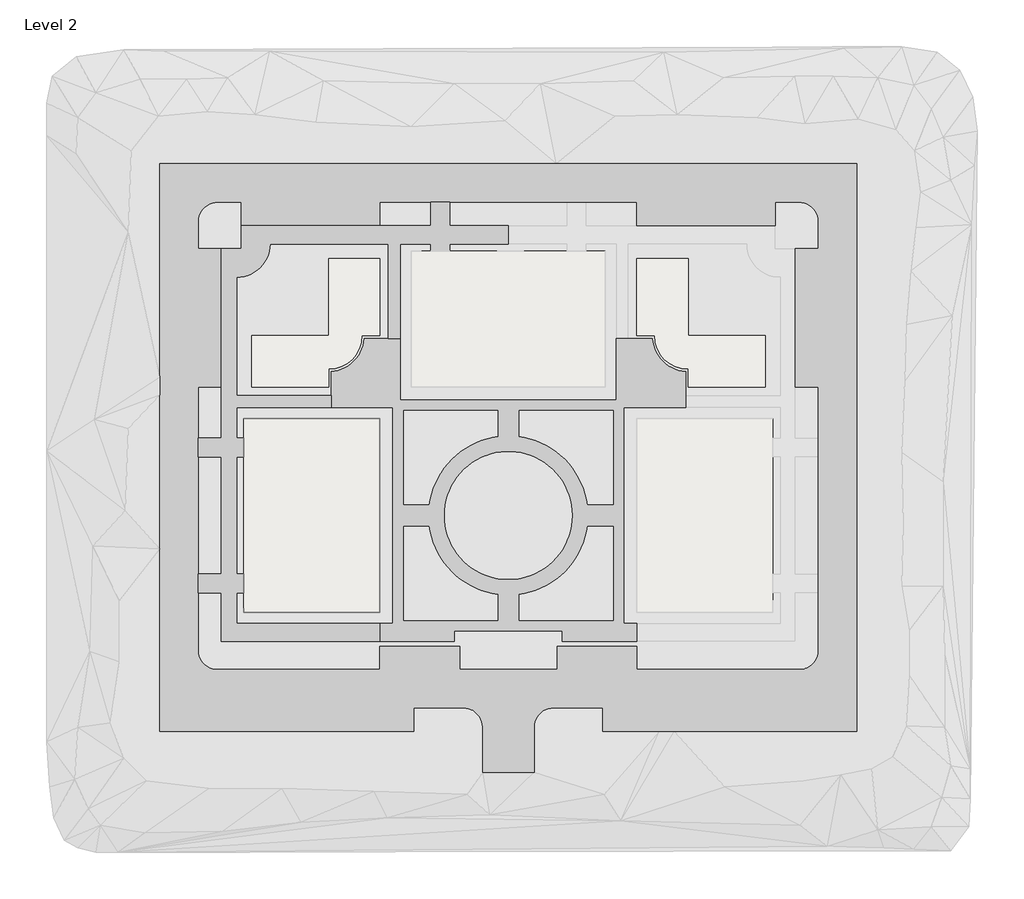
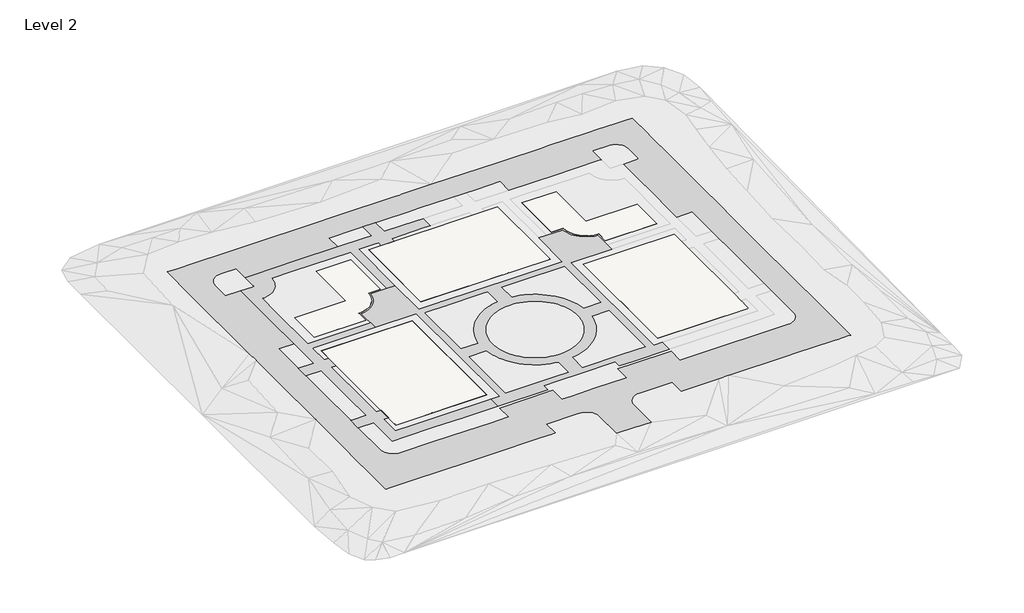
# One storey, part 1 of 3: 5 slabs, 4 proxies.
"""IFC4 building model written with IfcOpenShell, lengths in millimetres."""

from ifc_helpers import new_model, si_unit, point, frame, frame_2d, origin, place, context, project, spatial, polyline, circle_curve, trimmed, segment, composite_curve, outline, extrude, triangles, element, save

model = new_model("IFC4")

# Units and contexts
model_context = context("Model", 3, world=origin())
ifc_project = project(units=[si_unit("LENGTHUNIT", "METRE", prefix="MILLI")], contexts=[model_context])

# Site, building, storey
site = spatial("IfcSite", under=ifc_project)
building = spatial("IfcBuilding", under=site)
storey = spatial("IfcBuildingStorey", under=building, Name="Level 2", Elevation=3047.9999999)

# Proxies
placement = place(None, origin())
element("IfcBuildingElementProxy", 1, Name="Building Element Proxy", at=placement, inside=storey, context=model_context, shape_type="Tessellation", body=[
    triangles([(-153151.1541504, -113064.9684082, 2743.0404167), (-153151.1541504, -113064.9684082, 3048.0), (-153151.1541504, -113979.9265137, 2743.0404167), (-153151.1541504, -113979.9265137, 3048.0), (-152049.379541, -113979.9265137, 2743.0404167), (-152049.379541, -113979.9265137, 3048.0), (-140079.1613525, -113979.9265137, 2743.0404167), (-140079.1613525, -113979.9265137, 3048.0), (-120842.3541504, -113979.9265137, 2743.0404167), (-120842.3541504, -113979.9265137, 3048.0), (-120842.3541504, -67955.1218628, 2743.0404167), (-120842.3541504, -67955.1218628, 3048.0), (-153151.1541504, -67955.1218628, 2743.0404167), (-153151.1541504, -67955.1218628, 3048.0)], [[1, 4, 2], [1, 3, 4], [3, 6, 4], [3, 5, 6], [5, 8, 6], [5, 7, 8], [7, 10, 8], [7, 9, 10], [9, 12, 10], [9, 11, 12], [11, 14, 12], [11, 13, 14]], closed=False),
    triangles([(-153151.1541504, -104835.9265137, 2743.0404167), (-153151.1541504, -104835.9265137, 3048.0), (-153151.1541504, -109407.9265137, 2743.0404167), (-153151.1541504, -109407.9265137, 3048.0)], [[1, 4, 2], [1, 3, 4]], closed=False),
    triangles([(-153151.1541504, -72527.1218628, 2743.0404167), (-153151.1541504, -72527.1218628, 3048.0), (-153151.1541504, -77099.1218628, 2743.0404167), (-153151.1541504, -77099.1218628, 3048.0)], [[1, 4, 2], [1, 3, 4]], closed=False),
    triangles([(-153151.1541504, -67955.1218628, 2743.0404167), (-153151.1541504, -113979.9265137, 2743.0404167), (-120842.3541504, -113979.9265137, 2743.0404167), (-120842.3541504, -67955.1218628, 2743.0404167)], [[1, 2, 4], [3, 4, 2]], closed=False),
])
element("IfcBuildingElementProxy", 2, Name="Building Element Proxy", at=placement, inside=storey, context=model_context, shape_type="Tessellation", body=[
    triangles([(-96458.3541504, -141259.5265137, 3048.0), (-96458.3541504, -151927.5265137, 3048.0), (-90362.3541504, -151927.5265137, 3048.0), (-84266.3541504, -151927.5265137, 3048.0), (-84266.3541504, -141259.5265137, 3048.0), (-84219.8174561, -140608.8592529, 3048.0), (-84081.1561523, -139971.4376953, 3048.0), (-83853.1979736, -139360.2470947, 3048.0), (-83540.5658936, -138787.7145996, 3048.0), (-83149.640918, -138265.4953125, 3048.0), (-82688.3853516, -137804.2304443, 3048.0), (-82166.1660645, -137413.3147705, 3048.0), (-81593.6335693, -137100.6826904, 3048.0), (-80982.4429688, -136872.7245117, 3048.0), (-80345.0214111, -136734.0539063, 3048.0), (-79694.3541504, -136687.5265137, 3048.0), (-70630.3399658, -136687.5265137, 3048.0), (-67959.5588013, -136687.5265137, 3048.0), (-67959.5588013, -142173.9265137, 3048.0), (-54593.6723145, -142173.9265137, 3048.0), (-50988.4086548, -142173.9265137, 3048.0), (-30015.5818359, -142173.9265137, 3048.0), (-27380.2333923, -142173.9265137, 3048.0), (-14368.7717834, -142173.9265137, 3048.0), (-12021.3371613, -142173.9265137, 3048.0), (-8520.228772, -142173.9265137, 3048.0), (-7609.1582199, -142173.9265137, 3048.0), (-7609.1582199, -141262.8472412, 3048.0), (-7609.1582199, -135897.4445068, 3048.0), (-7609.1582199, -128757.108252, 3048.0), (-7609.1582199, -119744.5513916, 3048.0), (-7609.1582199, -109311.1696289, 3048.0), (-7609.1582199, -103111.0178467, 3048.0), (-7609.1582199, -88141.7269043, 3048.0), (-7609.1582199, -67102.3320557, 3048.0), (-7609.1582199, -63543.7213623, 3048.0), (-7609.1582199, -48692.6557617, 3048.0), (-7609.1582199, -45786.2285156, 3048.0), (-7609.1582199, -34925.2565735, 3048.0), (-7609.1582199, -29394.9894836, 3048.0), (-7609.1582199, -20175.2708496, 3048.0), (-7609.1582199, -15160.5374084, 3048.0), (-7609.1582199, -9469.011557, 3048.0), (-7609.1582199, -7452.3218628, 3048.0), (-9769.8966797, -7452.3218628, 3048.0), (-13137.2725342, -7452.3218628, 3048.0), (-20332.1054626, -7452.3218628, 3048.0), (-23395.2487244, -7452.3218628, 3048.0), (-37615.0575073, -7452.3218628, 3048.0), (-40375.0099731, -7452.3218628, 3048.0), (-52788.1732178, -7452.3218628, 3048.0), (-55510.2210205, -7452.3218628, 3048.0), (-79028.6831543, -7452.3218628, 3048.0), (-89744.5965088, -7452.3218628, 3048.0), (-90362.3541504, -7452.3218628, 3048.0), (-91818.4420166, -7452.3218628, 3048.0), (-112747.4808105, -7452.3218628, 3048.0), (-121728.1977539, -7452.3218628, 3048.0), (-142112.3953857, -7452.3218628, 3048.0), (-152868.4644287, -7452.3218628, 3048.0), (-163060.4655762, -7452.3218628, 3048.0), (-169916.8098633, -7452.3218628, 3048.0), (-173115.5541504, -7452.3218628, 3048.0), (-173115.5541504, -12340.9792786, 3048.0), (-173115.5541504, -16797.6432953, 3048.0), (-173115.5541504, -19343.470459, 3048.0), (-173115.5541504, -58140.023291, 3048.0), (-173115.5541504, -62355.6543457, 3048.0), (-173115.5541504, -78335.3859375, 3048.0), (-173115.5541504, -96485.831543, 3048.0), (-173115.5541504, -98940.6863525, 3048.0), (-173115.5541504, -118406.8004883, 3048.0), (-173115.5541504, -122301.5302002, 3048.0), (-173115.5541504, -133177.6942383, 3048.0), (-173115.5541504, -139265.5924072, 3048.0), (-173115.5541504, -142173.9265137, 3048.0), (-171062.6189941, -142173.9265137, 3048.0), (-161579.2164551, -142173.9265137, 3048.0), (-155924.3616211, -142173.9265137, 3048.0), (-141364.1619873, -142173.9265137, 3048.0), (-134914.7603027, -142173.9265137, 3048.0), (-118098.4844238, -142173.9265137, 3048.0), (-113948.1331055, -142173.9265137, 3048.0), (-112765.1541504, -142173.9265137, 3048.0), (-112765.1541504, -136687.5265137, 3048.0), (-101809.9809814, -136687.5265137, 3048.0), (-101030.3541504, -136687.5265137, 3048.0), (-100379.6961914, -136734.0539063, 3048.0), (-99742.2746338, -136872.7245117, 3048.0), (-99131.0840332, -137100.6826904, 3048.0), (-98978.0329102, -137184.2496826, 3048.0), (-98558.5515381, -137413.3147705, 3048.0), (-98036.332251, -137804.2304443, 3048.0), (-97575.0673828, -138265.4953125, 3048.0), (-97184.1424072, -138787.7145996, 3048.0), (-96871.5196289, -139360.2470947, 3048.0), (-96643.5521484, -139971.4376953, 3048.0), (-96504.8908447, -140608.8592529, 3048.0), (-120842.3541504, -16596.3218628, 3048.0), (-111973.5931641, -16596.3218628, 3048.0), (-92323.0716797, -16596.3218628, 3048.0), (-88392.1767334, -16596.3218628, 3048.0), (-68080.4816528, -16596.3218628, 3048.0), (-59882.3588013, -16596.3218628, 3048.0), (-59882.3588013, -22082.7218628, 3048.0), (-43016.1185303, -22082.7218628, 3048.0), (-36760.488739, -22082.7218628, 3048.0), (-27869.6965393, -22082.7218628, 3048.0), (-26963.9588013, -22082.7218628, 3048.0), (-26963.9588013, -17204.3033569, 3048.0), (-26963.9588013, -16596.3218628, 3048.0), (-21325.1588013, -16596.3218628, 3048.0), (-20674.493866, -16642.8585571, 3048.0), (-20037.0769592, -16781.5198608, 3048.0), (-19425.880545, -17009.4838531, 3048.0), (-18853.3480499, -17322.1112823, 3048.0), (-18331.1345764, -17713.0350952, 3048.0), (-17869.870871, -18174.2988007, 3048.0), (-17478.9470581, -18696.5122742, 3048.0), (-17166.3207916, -19269.0447693, 3048.0), (-16938.3556366, -19880.2400208, 3048.0), (-16799.6943329, -20517.6592529, 3048.0), (-16753.1576385, -21168.3218628, 3048.0), (-16753.1576385, -26553.1513184, 3048.0), (-16753.1576385, -27569.1218628, 3048.0), (-22239.5588013, -27569.1218628, 3048.0), (-22239.5588013, -28669.615155, 3048.0), (-22239.5588013, -35337.7267456, 3048.0), (-22239.5588013, -46411.753125, 3048.0), (-22239.5588013, -54882.9383789, 3048.0), (-22239.5588013, -60487.5218628, 3048.0), (-16753.1576385, -60487.5218628, 3048.0), (-16753.1576385, -98657.3269043, 3048.0), (-16753.1576385, -111345.1664063, 3048.0), (-16753.1576385, -122722.3696289, 3048.0), (-16753.1576385, -122971.5265137, 3048.0), (-16799.6943329, -123622.1844727, 3048.0), (-16938.3556366, -124259.6060303, 3048.0), (-17166.3207916, -124870.7966309, 3048.0), (-17478.9470581, -125443.329126, 3048.0), (-17869.870871, -125965.5484131, 3048.0), (-18331.1345764, -126426.8132813, 3048.0), (-18853.3480499, -126817.7289551, 3048.0), (-19425.880545, -127130.3610352, 3048.0), (-19872.0754028, -127296.7787842, 3048.0), (-20037.0769592, -127358.3192139, 3048.0), (-20674.493866, -127496.9898193, 3048.0), (-21325.1588013, -127543.5265137, 3048.0), (-34741.3910522, -127543.5265137, 3048.0), (-41871.5883911, -127543.5265137, 3048.0), (-59882.3588013, -127543.5265137, 3048.0), (-59882.3588013, -122057.1265137, 3048.0), (-72794.2171875, -122057.1265137, 3048.0), (-78779.9541504, -122057.1265137, 3048.0), (-78779.9541504, -127543.5265137, 3048.0), (-90362.3541504, -127543.5265137, 3048.0), (-98445.9909668, -127543.5265137, 3048.0), (-101944.7541504, -127543.5265137, 3048.0), (-101944.7541504, -122057.1265137, 3048.0), (-103048.1844727, -122057.1265137, 3048.0), (-120842.3541504, -122057.1265137, 3048.0), (-120842.3541504, -127543.5265137, 3048.0), (-127508.0124023, -127543.5265137, 3048.0), (-135716.2462646, -127543.5265137, 3048.0), (-147842.1479736, -127543.5265137, 3048.0), (-159399.5541504, -127543.5265137, 3048.0), (-160050.2307129, -127496.9898193, 3048.0), (-160687.6429688, -127358.3192139, 3048.0), (-161298.8428711, -127130.3610352, 3048.0), (-161871.3660645, -126817.7289551, 3048.0), (-162393.5853516, -126426.8132813, 3048.0), (-162854.840918, -125965.5484131, 3048.0), (-163245.7751953, -125443.329126, 3048.0), (-163558.3886719, -124870.7966309, 3048.0), (-163786.3561523, -124259.6060303, 3048.0), (-163925.0267578, -123622.1844727, 3048.0), (-163971.5541504, -122971.5265137, 3048.0), (-163971.5541504, -109289.2825928, 3048.0), (-163971.5541504, -104079.330835, 3048.0), (-163971.5541504, -88201.2767578, 3048.0), (-163971.5541504, -60487.5218628, 3048.0), (-158485.1541504, -60487.5218628, 3048.0), (-158485.1541504, -46724.2270752, 3048.0), (-158485.1541504, -34220.483313, 3048.0), (-158485.1541504, -27569.1218628, 3048.0), (-163971.5541504, -27569.1218628, 3048.0), (-163971.5541504, -21168.3218628, 3048.0), (-163925.0267578, -20517.6592529, 3048.0), (-163786.3561523, -19880.2400208, 3048.0), (-163558.3886719, -19269.0447693, 3048.0), (-163245.7751953, -18696.5122742, 3048.0), (-162854.840918, -18174.2988007, 3048.0), (-162393.5853516, -17713.0350952, 3048.0), (-161871.3660645, -17322.1112823, 3048.0), (-161298.8428711, -17009.4838531, 3048.0), (-160687.6429688, -16781.5198608, 3048.0), (-160050.2307129, -16642.8585571, 3048.0), (-159399.5541504, -16596.3218628, 3048.0), (-153760.7541504, -16596.3218628, 3048.0), (-153760.7541504, -22082.7218628, 3048.0), (-151061.086377, -22082.7218628, 3048.0), (-135421.6781982, -22082.7218628, 3048.0), (-120842.3541504, -22082.7218628, 3048.0)], [[75, 76, 77], [75, 77, 78], [78, 74, 75], [169, 74, 78], [167, 78, 166], [78, 79, 166], [165, 79, 80], [164, 80, 81], [164, 165, 80], [163, 164, 81], [163, 82, 162], [79, 165, 166], [174, 175, 73], [174, 73, 74], [73, 176, 177], [176, 73, 175], [72, 73, 177], [74, 173, 174], [167, 168, 78], [173, 74, 172], [171, 74, 170], [74, 171, 172], [168, 169, 78], [74, 169, 170], [163, 81, 82], [85, 83, 84], [85, 82, 83], [9, 156, 95], [156, 94, 95], [2, 3, 1], [1, 3, 5], [6, 97, 98], [5, 98, 1], [96, 97, 7], [3, 4, 5], [95, 96, 8], [85, 86, 158], [162, 160, 161], [158, 86, 87], [158, 87, 88], [158, 160, 162], [88, 157, 158], [162, 85, 158], [92, 93, 157], [91, 92, 157], [89, 90, 157], [157, 90, 91], [93, 156, 157], [89, 157, 88], [93, 94, 156], [85, 162, 82], [71, 72, 178], [70, 71, 179], [68, 69, 181], [67, 68, 181], [70, 180, 69], [179, 180, 70], [69, 180, 181], [67, 186, 66], [186, 67, 183], [183, 67, 181], [178, 179, 71], [177, 178, 72], [66, 186, 187], [189, 65, 66], [188, 66, 187], [64, 65, 192], [63, 64, 62], [193, 62, 64], [188, 189, 66], [192, 65, 191], [191, 65, 190], [62, 193, 61], [64, 192, 193], [193, 194, 61], [61, 194, 195], [190, 65, 189], [186, 184, 185], [198, 61, 197], [197, 61, 196], [186, 183, 184], [159, 160, 158], [59, 201, 202], [199, 200, 201], [181, 182, 183], [99, 202, 203], [99, 58, 202], [201, 59, 199], [198, 199, 60], [59, 60, 199], [59, 202, 58], [99, 57, 58], [60, 61, 198], [56, 100, 101], [55, 101, 102], [56, 57, 100], [54, 55, 102], [56, 101, 55], [102, 53, 54], [100, 57, 99], [196, 61, 195], [98, 5, 6], [96, 7, 8], [156, 10, 11], [10, 156, 9], [9, 95, 8], [20, 18, 19], [21, 151, 20], [13, 156, 12], [21, 22, 150], [12, 156, 11], [14, 15, 155], [13, 14, 155], [155, 16, 17], [154, 155, 153], [155, 15, 16], [156, 13, 155], [153, 17, 18], [150, 22, 149], [21, 150, 151], [152, 153, 151], [151, 18, 20], [153, 18, 151], [17, 153, 155], [22, 23, 149], [148, 24, 147], [146, 147, 24], [24, 145, 146], [24, 144, 145], [148, 23, 24], [28, 25, 26], [28, 26, 27], [29, 144, 24], [143, 144, 29], [29, 24, 25], [25, 28, 29], [142, 29, 30], [143, 29, 142], [142, 30, 141], [140, 30, 139], [139, 30, 138], [30, 140, 141], [136, 137, 31], [135, 136, 31], [33, 134, 32], [31, 32, 134], [134, 135, 31], [138, 30, 137], [137, 30, 31], [148, 149, 23], [134, 33, 133], [50, 106, 107], [104, 105, 106], [108, 109, 110], [108, 110, 107], [110, 111, 107], [128, 129, 38], [125, 127, 128], [127, 125, 126], [37, 129, 130], [52, 53, 103], [52, 103, 104], [51, 52, 104], [51, 104, 106], [50, 51, 106], [107, 111, 49], [113, 114, 47], [49, 111, 48], [112, 47, 48], [47, 112, 113], [111, 112, 48], [114, 115, 47], [49, 50, 107], [130, 131, 132], [53, 102, 103], [39, 128, 38], [124, 125, 40], [130, 132, 37], [124, 41, 123], [41, 122, 123], [132, 34, 35], [35, 36, 132], [38, 129, 37], [39, 40, 125], [39, 125, 128], [36, 37, 132], [133, 33, 34], [40, 41, 124], [119, 120, 42], [118, 119, 42], [116, 117, 46], [115, 116, 46], [118, 46, 117], [41, 42, 120], [41, 121, 122], [42, 46, 118], [45, 46, 43], [43, 44, 45], [46, 42, 43], [120, 121, 41], [115, 46, 47], [133, 34, 132], [7, 97, 6]], closed=False),
])
element("IfcBuildingElementProxy", 3, Name="Building Element Proxy", at=placement, inside=storey, context=model_context, shape_type="Tessellation", body=[
    triangles([(-115965.5541504, -63535.5218628, 3048.0), (-115965.5541504, -48905.1218628, 3048.0), (-124521.7574707, -48905.1218628, 3048.0), (-124628.057959, -49768.622644, 3048.0), (-124821.7112549, -50616.8173828, 3048.0), (-125100.7174805, -51440.8880127, 3048.0), (-125462.1744873, -52232.2676147, 3048.0), (-125902.3150635, -52982.7380859, 3048.0), (-126416.5813477, -53684.4999023, 3048.0), (-126999.6248291, -54330.255835, 3048.0), (-127645.3807617, -54913.2946655, 3048.0), (-128347.1425781, -55427.5609497, 3048.0), (-129097.6083984, -55867.7061768, 3048.0), (-129888.9926514, -56229.1631836, 3048.0), (-130713.0632813, -56508.1694092, 3048.0), (-131561.2533691, -56701.827356, 3048.0), (-132424.7541504, -56808.1231934, 3048.0), (-132424.7541504, -65364.3218628, 3048.0), (-117794.3541504, -65364.3218628, 3048.0), (-117794.3541504, -116570.7265137, 3048.0), (-120842.3541504, -116570.7265137, 3048.0), (-120842.3541504, -120837.9265137, 3048.0), (-103163.9541504, -120837.9265137, 3048.0), (-103163.9541504, -120689.163501, 3048.0), (-103163.9541504, -118399.5265137, 3048.0), (-97941.352002, -118399.5265137, 3048.0), (-90362.3541504, -118399.5265137, 3048.0), (-77560.7588013, -118399.5265137, 3048.0), (-77560.7588013, -120837.9265137, 3048.0), (-72974.5410645, -120837.9265137, 3048.0), (-59882.3588013, -120837.9265137, 3048.0), (-59882.3588013, -116570.7265137, 3048.0), (-62930.3588013, -116570.7265137, 3048.0), (-62930.3588013, -65364.3218628, 3048.0), (-48299.9588013, -65364.3218628, 3048.0), (-48299.9588013, -56808.1231934, 3048.0), (-49163.4595825, -56701.827356, 3048.0), (-50011.6543213, -56508.1694092, 3048.0), (-50835.7249512, -56229.1631836, 3048.0), (-51627.1045532, -55867.7061768, 3048.0), (-52377.5750244, -55427.5609497, 3048.0), (-53079.3368408, -54913.2946655, 3048.0), (-53725.0881226, -54330.255835, 3048.0), (-54308.131604, -53684.4999023, 3048.0), (-54822.3978882, -52982.7380859, 3048.0), (-55262.5431152, -52232.2676147, 3048.0), (-55624.0001221, -51440.8880127, 3048.0), (-55903.0063477, -50616.8173828, 3048.0), (-56096.6642944, -49768.622644, 3048.0), (-56202.9601318, -48905.1218628, 3048.0), (-64759.1588013, -48905.1218628, 3048.0), (-64759.1588013, -63535.5218628, 3048.0), (-81449.735376, -63535.5218628, 3048.0), (-94913.5368164, -63535.5218628, 3048.0), (-108001.017041, -63535.5218628, 3048.0), (-92800.7541504, -65973.9218628, 3048.0), (-92800.7541504, -72227.8982666, 3048.0), (-94158.9968262, -72455.2332275, 3048.0), (-95422.7708496, -72762.7958496, 3048.0), (-95497.073291, -72780.8784668, 3048.0), (-96807.877002, -73203.1038574, 3048.0), (-98084.4595459, -73719.6676758, 3048.0), (-99320.0213379, -74327.8259033, 3048.0), (-100508.0232422, -75024.3508301, 3048.0), (-101642.1493652, -75805.5403564, 3048.0), (-102716.3628662, -76667.2505493, 3048.0), (-103724.9803711, -77604.900293, 3048.0), (-104662.6254639, -78613.5177979, 3048.0), (-105524.3403076, -79687.7312988, 3048.0), (-106305.529834, -80821.8574219, 3048.0), (-106508.6988281, -81168.3851074, 3048.0), (-107002.0547607, -82009.8500244, 3048.0), (-107610.2129883, -83245.4211182, 3048.0), (-108126.7768066, -84522.0036621, 3048.0), (-108549.0021973, -85832.807373, 3048.0), (-108874.6474365, -87170.8838379, 3048.0), (-109101.9823975, -88529.1265137, 3048.0), (-115355.9541504, -88529.1265137, 3048.0), (-115355.9541504, -65973.9218628, 3048.0), (-107794.6482422, -65973.9218628, 3048.0), (-95048.1053467, -65973.9218628, 3048.0), (-92800.7541504, -115961.1265137, 3048.0), (-97806.7834717, -115961.1265137, 3048.0), (-103564.1064697, -115961.1265137, 3048.0), (-115355.9541504, -115961.1265137, 3048.0), (-115355.9541504, -93405.9265137, 3048.0), (-109101.9823975, -93405.9265137, 3048.0), (-108874.6474365, -94764.1598877, 3048.0), (-108549.0021973, -96102.2363525, 3048.0), (-108126.7768066, -97413.0400635, 3048.0), (-107610.2129883, -98689.6226074, 3048.0), (-107002.0547607, -99925.1937012, 3048.0), (-106305.529834, -101113.1863037, 3048.0), (-105524.3403076, -102247.3124268, 3048.0), (-104662.6254639, -103321.5259277, 3048.0), (-104630.9436768, -103355.6168701, 3048.0), (-103724.9803711, -104330.1434326, 3048.0), (-102716.3628662, -105267.7978271, 3048.0), (-101642.1493652, -106129.5033691, 3048.0), (-100508.0232422, -106910.6928955, 3048.0), (-99320.0213379, -107607.2178223, 3048.0), (-98084.4595459, -108215.3760498, 3048.0), (-97394.7156006, -108494.475293, 3048.0), (-96807.877002, -108731.9398682, 3048.0), (-95497.073291, -109154.1652588, 3048.0), (-94158.9968262, -109479.810498, 3048.0), (-92800.7541504, -109707.145459, 3048.0), (-105602.3541504, -90967.5265137, 3048.0), (-105552.9432129, -89741.2106689, 3048.0), (-105405.0080566, -88522.8571289, 3048.0), (-105159.5067627, -87320.3537842, 3048.0), (-104818.0578369, -86141.5048096, 3048.0), (-104382.8471924, -84993.9469482, 3048.0), (-103856.7118652, -83885.14021, 3048.0), (-103243.0562988, -82822.2655518, 3048.0), (-102545.8616455, -81812.2062744, 3048.0), (-101769.6578613, -80861.5294189, 3048.0), (-100919.4771973, -79976.392749, 3048.0), (-100000.8262939, -79162.544751, 3048.0), (-99019.6675781, -78425.2502197, 3048.0), (-97982.3541504, -77769.2949097, 3048.0), (-96895.6297852, -77198.9390259, 3048.0), (-95766.5359131, -76717.8753662, 3048.0), (-95638.683252, -76675.1895996, 3048.0), (-94602.3930176, -76329.2246704, 3048.0), (-93410.754126, -76035.5123657, 3048.0), (-92199.3396973, -75838.6406616, 3048.0), (-90976.0097168, -75739.879248, 3048.0), (-89748.7078857, -75739.879248, 3048.0), (-88525.3779053, -75838.6406616, 3048.0), (-87313.9634766, -76035.5123657, 3048.0), (-86122.324585, -76329.2246704, 3048.0), (-84958.1816895, -76717.8753662, 3048.0), (-83829.0878174, -77198.9390259, 3048.0), (-82742.3541504, -77769.2949097, 3048.0), (-81705.0500244, -78425.2502197, 3048.0), (-80723.8913086, -79162.544751, 3048.0), (-79805.2404053, -79976.392749, 3048.0), (-78955.0504395, -80861.5294189, 3048.0), (-78872.1438721, -80963.076709, 3048.0), (-78178.8466553, -81812.2062744, 3048.0), (-77481.6613037, -82822.2655518, 3048.0), (-76868.0103882, -83885.14021, 3048.0), (-76341.8704102, -84993.9469482, 3048.0), (-75906.6644165, -86141.5048096, 3048.0), (-75565.206189, -87320.3537842, 3048.0), (-75319.7141968, -88522.8571289, 3048.0), (-75171.7743896, -89741.2106689, 3048.0), (-75122.3588013, -90967.5265137, 3048.0), (-75171.7743896, -92193.8330566, 3048.0), (-75319.7141968, -93412.1865967, 3048.0), (-75565.206189, -94614.6899414, 3048.0), (-75906.6644165, -95793.538916, 3048.0), (-76341.8704102, -96941.0967773, 3048.0), (-76469.2486816, -97209.5362061, 3048.0), (-76868.0103882, -98049.9035156, 3048.0), (-77481.6613037, -99112.7781738, 3048.0), (-78178.8466553, -100122.8374512, 3048.0), (-78955.0504395, -101073.5143066, 3048.0), (-79805.2404053, -101958.6509766, 3048.0), (-80723.8913086, -102772.4989746, 3048.0), (-81705.0500244, -103509.7935059, 3048.0), (-82742.3541504, -104165.7534668, 3048.0), (-83829.0878174, -104736.1093506, 3048.0), (-84958.1816895, -105217.1683594, 3048.0), (-86122.324585, -105605.8144043, 3048.0), (-87313.9634766, -105899.5360107, 3048.0), (-88525.3779053, -106096.4077148, 3048.0), (-89748.7078857, -106195.1644775, 3048.0), (-90976.0097168, -106195.1644775, 3048.0), (-92199.3396973, -106096.4077148, 3048.0), (-93410.754126, -105899.5360107, 3048.0), (-94602.3930176, -105605.8144043, 3048.0), (-95766.5359131, -105217.1683594, 3048.0), (-96895.6297852, -104736.1093506, 3048.0), (-97179.0915527, -104587.3370361, 3048.0), (-97982.3541504, -104165.7534668, 3048.0), (-99019.6675781, -103509.7935059, 3048.0), (-100000.8262939, -102772.4989746, 3048.0), (-100919.4771973, -101958.6509766, 3048.0), (-101769.6578613, -101073.5143066, 3048.0), (-102545.8616455, -100122.8374512, 3048.0), (-103243.0562988, -99112.7781738, 3048.0), (-103856.7118652, -98049.9035156, 3048.0), (-104382.8471924, -96941.0967773, 3048.0), (-104818.0578369, -95793.538916, 3048.0), (-105159.5067627, -94614.6899414, 3048.0), (-105405.0080566, -93412.1865967, 3048.0), (-105552.9432129, -92193.8330566, 3048.0), (-87923.9541504, -65973.9218628, 3048.0), (-81089.0876221, -65973.9218628, 3048.0), (-65368.7588013, -65973.9218628, 3048.0), (-65368.7588013, -88529.1265137, 3048.0), (-71622.7352051, -88529.1265137, 3048.0), (-71850.070166, -87170.8838379, 3048.0), (-72175.7154053, -85832.807373, 3048.0), (-72597.9407959, -84522.0036621, 3048.0), (-73114.5046143, -83245.4211182, 3048.0), (-73722.6628418, -82009.8500244, 3048.0), (-74419.1877686, -80821.8574219, 3048.0), (-75200.3772949, -79687.7312988, 3048.0), (-76062.0874878, -78613.5177979, 3048.0), (-76999.7372314, -77604.900293, 3048.0), (-78008.3500854, -76667.2505493, 3048.0), (-79082.5682373, -75805.5403564, 3048.0), (-79697.6190674, -75381.8917969, 3048.0), (-80216.6943604, -75024.3508301, 3048.0), (-81404.6869629, -74327.8259033, 3048.0), (-82640.2580566, -73719.6676758, 3048.0), (-83916.8406006, -73203.1038574, 3048.0), (-85227.6443115, -72780.8784668, 3048.0), (-86565.7207764, -72455.2332275, 3048.0), (-87923.9541504, -72227.8982666, 3048.0), (-87923.9541504, -115961.1265137, 3048.0), (-87923.9541504, -109707.145459, 3048.0), (-86565.7207764, -109479.810498, 3048.0), (-85227.6443115, -109154.1652588, 3048.0), (-83916.8406006, -108731.9398682, 3048.0), (-82640.2580566, -108215.3760498, 3048.0), (-81404.6869629, -107607.2178223, 3048.0), (-80216.6943604, -106910.6928955, 3048.0), (-79082.5682373, -106129.5033691, 3048.0), (-78008.3500854, -105267.7978271, 3048.0), (-76999.7372314, -104330.1434326, 3048.0), (-76062.0874878, -103321.5259277, 3048.0), (-75642.6107666, -102798.599707, 3048.0), (-75200.3772949, -102247.3124268, 3048.0), (-74419.1877686, -101113.1863037, 3048.0), (-73722.6628418, -99925.1937012, 3048.0), (-73114.5046143, -98689.6226074, 3048.0), (-72597.9407959, -97413.0400635, 3048.0), (-72175.7154053, -96102.2363525, 3048.0), (-71850.070166, -94764.1598877, 3048.0), (-71622.7352051, -93405.9265137, 3048.0), (-65368.7588013, -93405.9265137, 3048.0), (-65368.7588013, -115961.1265137, 3048.0), (-73695.8365723, -115961.1265137, 3048.0)], [[22, 20, 21], [20, 22, 85], [85, 86, 20], [20, 86, 19], [186, 89, 90], [185, 90, 91], [22, 23, 85], [94, 183, 93], [95, 182, 94], [184, 92, 183], [185, 91, 184], [183, 92, 93], [184, 91, 92], [95, 96, 181], [186, 90, 185], [108, 87, 189], [86, 87, 78], [78, 87, 77], [109, 77, 108], [77, 110, 76], [87, 108, 77], [87, 88, 188], [188, 189, 87], [187, 88, 89], [188, 88, 187], [109, 110, 77], [76, 111, 75], [110, 111, 76], [186, 187, 89], [112, 75, 111], [86, 78, 19], [84, 25, 83], [25, 84, 85], [25, 85, 24], [177, 100, 101], [102, 176, 101], [24, 85, 23], [26, 83, 25], [83, 26, 82], [171, 172, 107], [26, 27, 82], [174, 103, 104], [173, 104, 105], [106, 172, 105], [175, 102, 103], [107, 172, 106], [180, 97, 98], [179, 180, 98], [183, 94, 182], [180, 181, 97], [95, 181, 182], [98, 99, 179], [96, 97, 181], [176, 102, 175], [174, 104, 173], [103, 174, 175], [178, 179, 99], [100, 177, 178], [99, 100, 178], [101, 176, 177], [105, 172, 173], [19, 78, 79], [113, 73, 74], [1, 79, 55], [16, 17, 18], [13, 18, 19], [1, 19, 79], [1, 10, 19], [72, 114, 71], [114, 72, 73], [54, 55, 80], [55, 79, 80], [115, 69, 70], [70, 71, 115], [74, 75, 112], [15, 16, 18], [14, 15, 18], [13, 19, 12], [11, 19, 10], [19, 11, 12], [14, 18, 13], [9, 1, 8], [6, 7, 2], [1, 7, 8], [4, 5, 2], [2, 3, 4], [5, 6, 2], [10, 1, 9], [7, 1, 2], [116, 69, 115], [115, 71, 114], [117, 67, 68], [116, 117, 68], [67, 118, 66], [69, 116, 68], [114, 73, 113], [117, 118, 67], [66, 119, 65], [118, 119, 66], [64, 120, 121], [62, 122, 123], [63, 121, 122], [65, 119, 120], [61, 123, 124], [63, 122, 62], [121, 63, 64], [125, 60, 61], [125, 59, 60], [61, 62, 123], [65, 120, 64], [59, 126, 58], [58, 126, 57], [57, 126, 127], [54, 80, 81], [54, 81, 56], [213, 56, 57], [54, 56, 190], [57, 127, 128], [59, 125, 126], [124, 125, 61], [112, 113, 74], [107, 82, 215], [214, 215, 82], [169, 107, 215], [107, 169, 170], [167, 215, 216], [169, 215, 168], [217, 167, 216], [107, 170, 171], [214, 28, 237], [214, 27, 28], [220, 164, 219], [220, 221, 163], [219, 165, 218], [218, 166, 217], [222, 162, 221], [168, 215, 167], [166, 218, 165], [164, 220, 163], [219, 164, 165], [217, 166, 167], [162, 222, 161], [161, 223, 160], [163, 221, 162], [160, 223, 224], [159, 160, 224], [227, 157, 158], [158, 159, 226], [225, 159, 224], [222, 223, 161], [28, 29, 30], [82, 27, 214], [228, 157, 227], [227, 158, 226], [230, 155, 156], [229, 156, 157], [228, 229, 157], [230, 156, 229], [226, 159, 225], [236, 31, 33], [31, 236, 30], [31, 32, 33], [237, 30, 236], [155, 230, 154], [236, 33, 235], [28, 30, 237], [154, 230, 231], [154, 231, 153], [152, 153, 232], [195, 146, 147], [147, 148, 194], [152, 233, 151], [233, 234, 151], [234, 235, 193], [151, 234, 150], [150, 234, 149], [195, 147, 194], [149, 234, 194], [234, 193, 194], [149, 194, 148], [33, 34, 235], [233, 152, 232], [231, 232, 153], [205, 136, 137], [207, 135, 136], [211, 131, 132], [209, 133, 134], [210, 132, 133], [134, 135, 208], [202, 139, 140], [201, 141, 142], [202, 140, 141], [138, 139, 203], [203, 204, 138], [203, 139, 202], [138, 204, 137], [142, 143, 199], [137, 204, 205], [129, 130, 213], [129, 213, 57], [190, 56, 213], [213, 130, 131], [212, 213, 131], [211, 212, 131], [57, 128, 129], [134, 208, 209], [207, 208, 135], [210, 133, 209], [132, 210, 211], [53, 190, 191], [191, 192, 53], [136, 206, 207], [136, 205, 206], [198, 144, 197], [197, 144, 145], [198, 199, 143], [141, 201, 202], [142, 200, 201], [199, 200, 142], [198, 143, 144], [197, 145, 196], [146, 196, 145], [52, 53, 192], [43, 52, 34], [34, 52, 192], [34, 35, 40], [192, 193, 34], [36, 37, 35], [193, 235, 34], [146, 195, 196], [46, 47, 51], [46, 51, 52], [50, 51, 49], [48, 49, 51], [51, 47, 48], [52, 45, 46], [39, 40, 35], [37, 38, 35], [39, 35, 38], [45, 52, 44], [43, 34, 42], [52, 43, 44], [42, 34, 41], [34, 40, 41], [53, 54, 190]], closed=False),
])
element("IfcBuildingElementProxy", 4, Name="Building Element Proxy", at=placement, inside=storey, context=model_context, shape_type="Tessellation", body=[
    triangles([(-154848.0459229, -34406.6370667, 3048.0), (-153960.7512451, -34356.80755, 3048.0), (-153084.609375, -34207.9468689, 3048.0), (-152230.6428955, -33961.9246765, 3048.0), (-151409.6046387, -33621.8361328, 3048.0), (-150631.7916504, -33191.9577209, 3048.0), (-149907.0079834, -32677.6960876, 3048.0), (-149244.3600586, -32085.5159546, 3048.0), (-148652.182251, -31422.8680298, 3048.0), (-148137.9252686, -30698.0843628, 3048.0), (-147708.0445312, -29920.2783508, 3048.0), (-147367.9536621, -29099.2331177, 3048.0), (-147121.9314697, -28245.2712891, 3048.0), (-146973.0754395, -27369.1340698, 3048.0), (-146923.2459229, -26481.8370667, 3048.0), (-139539.0826904, -26481.8370667, 3048.0), (-118829.0351807, -26481.8370667, 3048.0), (-118829.0351807, -48905.1218628, 3048.0), (-115965.5541504, -48905.1218628, 3048.0), (-115965.5541504, -26481.8370667, 3048.0), (-111136.9651611, -26481.8370667, 3048.0), (-108802.7541504, -26481.8370667, 3048.0), (-108802.7541504, -28178.7218628, 3048.0), (-104230.7541504, -28178.7218628, 3048.0), (-104230.7541504, -26481.8370667, 3048.0), (-92868.6290771, -26481.8370667, 3048.0), (-90362.3541504, -26481.8370667, 3048.0), (-90362.3541504, -22082.7218628, 3048.0), (-92625.8531982, -22082.7218628, 3048.0), (-104230.7541504, -22082.7218628, 3048.0), (-104230.7541504, -16596.3218628, 3048.0), (-108802.7541504, -16596.3218628, 3048.0), (-108802.7541504, -22082.7218628, 3048.0), (-111509.2680176, -22082.7218628, 3048.0), (-120842.3541504, -22082.7218628, 3048.0), (-135421.6781982, -22082.7218628, 3048.0), (-151061.086377, -22082.7218628, 3048.0), (-153760.7541504, -22082.7218628, 3048.0), (-153760.7541504, -26496.4640808, 3048.0), (-153760.7541504, -27569.1218628, 3048.0), (-154416.8536377, -27569.1218628, 3048.0), (-158485.1541504, -27569.1218628, 3048.0), (-158485.1541504, -34220.483313, 3048.0), (-158485.1541504, -46724.2270752, 3048.0), (-158485.1541504, -60487.5218628, 3048.0), (-158485.1541504, -72527.1218628, 3048.0), (-163971.5541504, -72527.1218628, 3048.0), (-163971.5541504, -77099.1218628, 3048.0), (-158485.1541504, -77099.1218628, 3048.0), (-158485.1541504, -94120.8131104, 3048.0), (-158485.1541504, -104835.9265137, 3048.0), (-163060.4841797, -104835.9265137, 3048.0), (-163971.5541504, -104835.9265137, 3048.0), (-163971.5541504, -109289.2825928, 3048.0), (-163971.5541504, -109407.9265137, 3048.0), (-163866.7233398, -109407.9265137, 3048.0), (-158485.1541504, -109407.9265137, 3048.0), (-158485.1541504, -115498.4384766, 3048.0), (-158485.1541504, -120837.9265137, 3048.0), (-153767.2095703, -120837.9265137, 3048.0), (-143791.0557129, -120837.9265137, 3048.0), (-133722.9632813, -120837.9265137, 3048.0), (-120842.3541504, -120837.9265137, 3048.0), (-120842.3541504, -116570.7265137, 3048.0), (-137677.9311768, -116570.7265137, 3048.0), (-148929.5606689, -116570.7265137, 3048.0), (-154848.0459229, -116570.7265137, 3048.0), (-154848.0459229, -111655.8079102, 3048.0), (-154848.0459229, -109407.9265137, 3048.0), (-153151.1541504, -109407.9265137, 3048.0), (-153151.1541504, -104835.9265137, 3048.0), (-154848.0459229, -104835.9265137, 3048.0), (-154848.0459229, -98045.0666016, 3048.0), (-154848.0459229, -77099.1218628, 3048.0), (-153151.1541504, -77099.1218628, 3048.0), (-153151.1541504, -72527.1218628, 3048.0), (-154848.0459229, -72527.1218628, 3048.0), (-154848.0459229, -65364.3218628, 3048.0), (-132424.7541504, -65364.3218628, 3048.0), (-132424.7541504, -62500.8408325, 3048.0), (-154848.0459229, -62500.8408325, 3048.0), (-154848.0459229, -42838.2549683, 3048.0)], [[54, 55, 56], [58, 68, 57], [51, 57, 69], [52, 56, 57], [53, 54, 52], [52, 54, 56], [57, 51, 52], [67, 58, 59], [69, 57, 68], [66, 67, 60], [69, 70, 72], [67, 59, 60], [72, 51, 69], [74, 49, 50], [71, 72, 70], [73, 50, 51], [72, 73, 51], [68, 58, 67], [48, 49, 47], [78, 45, 46], [46, 47, 49], [77, 46, 74], [45, 78, 81], [49, 74, 46], [45, 81, 44], [42, 43, 1], [82, 1, 43], [82, 44, 81], [82, 43, 44], [42, 1, 41], [77, 78, 46], [76, 77, 75], [77, 74, 75], [2, 41, 1], [37, 38, 39], [40, 3, 4], [40, 41, 2], [39, 40, 14], [2, 3, 40], [4, 5, 40], [78, 80, 81], [50, 73, 74], [40, 6, 7], [7, 8, 40], [9, 40, 8], [10, 11, 40], [12, 13, 40], [12, 40, 11], [10, 40, 9], [78, 79, 80], [40, 13, 14], [65, 61, 62], [62, 63, 64], [62, 64, 65], [20, 18, 19], [66, 61, 65], [66, 60, 61], [35, 17, 20], [20, 17, 18], [16, 17, 36], [21, 34, 20], [37, 15, 36], [37, 39, 15], [36, 15, 16], [36, 17, 35], [20, 34, 35], [21, 33, 34], [39, 14, 15], [22, 23, 25], [30, 25, 26], [25, 23, 24], [25, 30, 22], [29, 26, 27], [32, 33, 31], [31, 33, 30], [29, 30, 26], [28, 29, 27], [33, 22, 30], [22, 33, 21], [6, 40, 5]], closed=False),
])

# Slabs
element("IfcSlab", 5, ObjectType="Pad 1", at=placement, inside=storey, context=model_context, shape_type="SweptSolid", body=[
    extrude(outline(polyline([(-153151.158026, -67955.1218987), (-120842.358026, -67955.1218987), (-120842.358026, -113979.9218987), (-153151.158026, -113979.9218987), (-153151.158026, -67955.1218987)])), frame((0.0, 0.0, 2743.2), z_axis=(0.0, 0.0, 1.0), x_axis=(1.0, 0.0, 0.0)), (0.0, 0.0, 1.0), 304.8),
])
element("IfcSlab", 6, ObjectType="Pad 1", at=placement, inside=storey, context=model_context, shape_type="SweptSolid", body=[
    extrude(outline(polyline([(-67349.958026, -28178.7218987), (-67349.958026, -60487.5218987), (-113374.758026, -60487.5218987), (-113374.758026, -28178.7218987), (-67349.958026, -28178.7218987)])), frame((0.0, 0.0, 2743.2), z_axis=(0.0, 0.0, 1.0), x_axis=(1.0, 0.0, 0.0)), (0.0, 0.0, 1.0), 304.8),
])
element("IfcSlab", 7, ObjectType="Pad 1", at=placement, inside=storey, context=model_context, shape_type="SweptSolid", body=[
    extrude(outline(polyline([(-27573.558026, -113979.9218987), (-59882.358026, -113979.9218987), (-59882.358026, -67955.1218987), (-27573.558026, -67955.1218987), (-27573.558026, -113979.9218987)])), frame((0.0, 0.0, 2743.2), z_axis=(0.0, 0.0, 1.0), x_axis=(1.0, 0.0, 0.0)), (0.0, 0.0, 1.0), 304.8),
])
element("IfcSlab", 8, ObjectType="Pad 1", at=placement, inside=storey, context=model_context, shape_type="SweptSolid", body=[
    extrude(outline(composite_curve([segment(polyline([(-120842.358026, -30007.5218987), (-120842.358026, -48295.5218987), (-125109.558026, -48295.5218987)]), True, "CONTINUOUS"), segment(trimmed(circle_curve(frame_2d((-133034.358026, -48295.5218987)), 7924.8), [point((-125109.558026, -48295.5218987))], [point((-133034.358026, -56220.3218987))], False, "CARTESIAN"), True, "CONTINUOUS"), segment(polyline([(-133034.358026, -56220.3218987), (-133034.358026, -60487.5218987), (-151322.358026, -60487.5218987), (-151322.358026, -48295.5218987), (-133034.358026, -48295.5218987), (-133034.358026, -30007.5218987), (-120842.358026, -30007.5218987)]), True, "CONTINUOUS")], self_intersect=False)), frame((0.0, 0.0, 2743.2), z_axis=(0.0, 0.0, 1.0), x_axis=(1.0, 0.0, 0.0)), (0.0, 0.0, 1.0), 304.8),
])
element("IfcSlab", 9, ObjectType="Pad 1", at=placement, inside=storey, context=model_context, shape_type="SweptSolid", body=[
    extrude(outline(composite_curve([segment(polyline([(-59882.358026, -30007.5218987), (-47690.358026, -30007.5218987), (-47690.358026, -48295.5218987), (-29402.358026, -48295.5218987), (-29402.358026, -60487.5218987), (-47690.358026, -60487.5218987), (-47690.358026, -56220.3218987)]), True, "CONTINUOUS"), segment(trimmed(circle_curve(frame_2d((-47690.358026, -48295.5218987)), 7924.8), [point((-47690.358026, -56220.3218987))], [point((-55615.158026, -48295.5218987))], False, "CARTESIAN"), True, "CONTINUOUS"), segment(polyline([(-55615.158026, -48295.5218987), (-59882.358026, -48295.5218987), (-59882.358026, -30007.5218987)]), True, "CONTINUOUS")], self_intersect=False)), frame((0.0, 0.0, 2743.2), z_axis=(0.0, 0.0, 1.0), x_axis=(1.0, 0.0, 0.0)), (0.0, 0.0, 1.0), 304.8),
])

save(model, "model.ifc")
